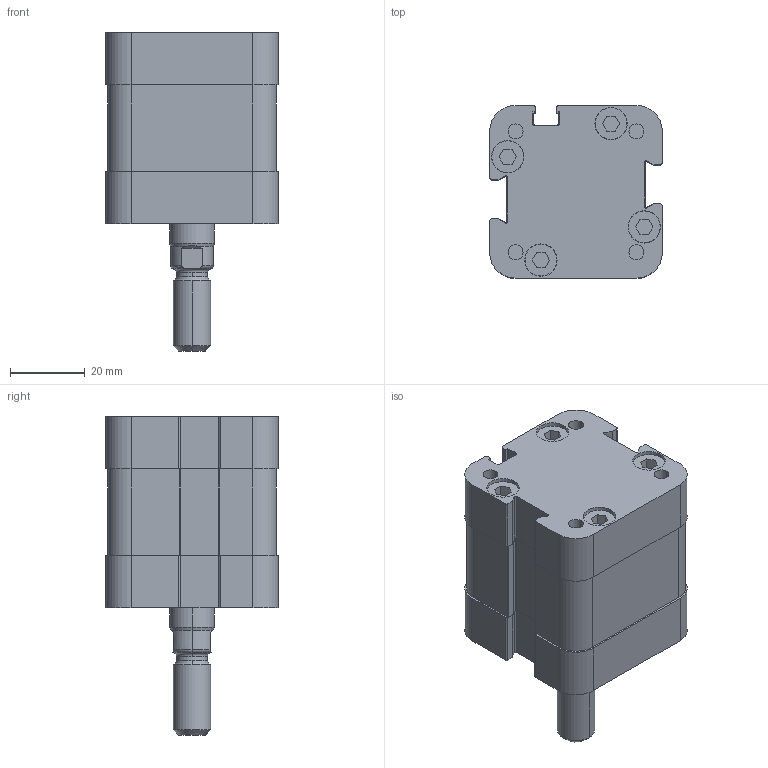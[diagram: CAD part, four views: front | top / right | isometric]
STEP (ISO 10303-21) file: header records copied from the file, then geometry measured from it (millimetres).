
FILE_DESCRIPTION((''),'2;1');
FILE_NAME('P31M30320005.stp','2010-02-25T21:04:28',('B. Petkovic 2010'),('AZ PNEUMATICA S.r.l.'),'Mechanical Desktop 2006','Mechanical Desktop 2006','Via Marco Biagi 6, I-20020 Misinto(MI) Italy, azpneu@tin.it');
FILE_SCHEMA(('CONFIG_CONTROL_DESIGN'));
Length unit declared in the file: millimetre
Products named in the file (2): P31M30320005; COMPACT CILINDRI
Assembly tree (1 placements, depth 2):
  P31M30320005
    COMPACT CILINDRI
Bounding box: 46 x 46 x 85 mm (x, y, z)
Volume: 96750.7 mm3; surface area: 19927.6 mm2
Topology: 1 solids, 1 shells, 304 faces, 771 edges, 507 vertices
Faces by surface type: plane 176, cylinder 116, cone 6, bspline 4, torus 2
Entity records: 9539 total; most frequent: CARTESIAN_POINT 1836, DIRECTION 1644, ORIENTED_EDGE 1542, EDGE_CURVE 771, AXIS2_PLACEMENT_3D 573, VERTEX_POINT 507, VECTOR 498, LINE 498
